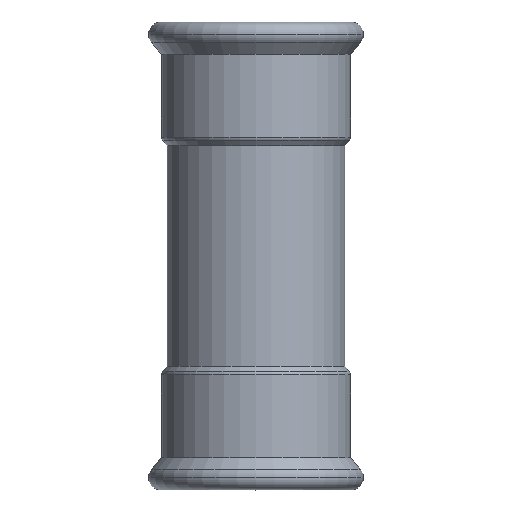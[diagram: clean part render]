
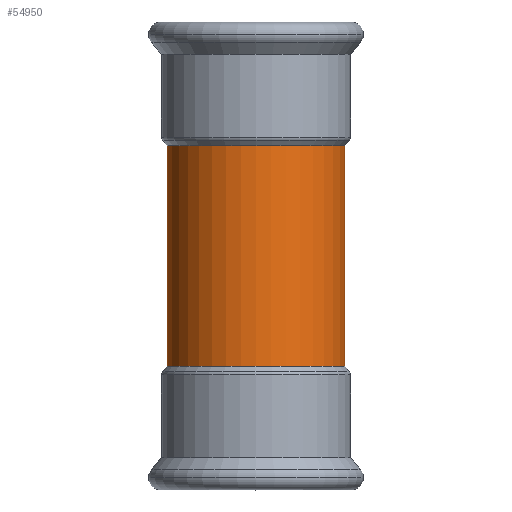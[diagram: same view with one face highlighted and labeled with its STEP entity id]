
A CAD part, top view. The second image highlights one B-rep face of the part: STEP entity #54950.
In plain terms, the highlighted cylindrical face has radius 27 mm (diameter 54 mm), a partial arc.
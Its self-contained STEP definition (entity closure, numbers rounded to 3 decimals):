
#13350=CARTESIAN_POINT('',(-319.291,6.435,
33.5));
#13360=DIRECTION('',(0.,0.,1.));
#13370=DIRECTION('',(-1.,0.,0.));
#13380=AXIS2_PLACEMENT_3D('',#13350,#13360,#13370);
#13390=CYLINDRICAL_SURFACE('',#13380,27.);
#19500=CARTESIAN_POINT('',(-292.291,6.435,
33.5));
#19510=DIRECTION('',(0.,0.,1.));
#19520=VECTOR('',#19510,1.);
#19530=LINE('',#19500,#19520);
#19540=CARTESIAN_POINT('',(-292.291,6.435,
-33.5));
#19550=VERTEX_POINT('',#19540);
#19560=CARTESIAN_POINT('',(-292.291,6.435,
33.5));
#19570=VERTEX_POINT('',#19560);
#19580=EDGE_CURVE('',#19550,#19570,#19530,.T.);
#19600=CARTESIAN_POINT('',(-319.291,6.435,
33.5));
#19610=DIRECTION('',(0.,0.,1.));
#19620=DIRECTION('',(1.,0.,0.));
#19630=AXIS2_PLACEMENT_3D('',#19600,#19610,#19620);
#19640=CIRCLE('',#19630,27.);
#19650=CARTESIAN_POINT('',(-346.291,6.435,
33.5));
#19660=VERTEX_POINT('',#19650);
#19690=CARTESIAN_POINT('',(-346.291,6.435,
33.5));
#19700=DIRECTION('',(0.,0.,1.));
#19710=VECTOR('',#19700,1.);
#19720=LINE('',#19690,#19710);
#19730=CARTESIAN_POINT('',(-346.291,6.435,
-33.5));
#19740=VERTEX_POINT('',#19730);
#19750=EDGE_CURVE('',#19740,#19660,#19720,.T.);
#19770=CARTESIAN_POINT('',(-319.291,6.435,
-33.5));
#19780=DIRECTION('',(0.,0.,1.));
#19790=DIRECTION('',(-1.,0.,0.));
#19800=AXIS2_PLACEMENT_3D('',#19770,#19780,#19790);
#19810=CIRCLE('',#19800,27.);
#54300=EDGE_CURVE('',#19660,#19570,#19640,.T.);
#54830=EDGE_CURVE('',#19740,#19550,#19810,.T.);
#54890=ORIENTED_EDGE('',*,*,#54830,.T.);
#54900=ORIENTED_EDGE('',*,*,#19750,.F.);
#54910=ORIENTED_EDGE('',*,*,#54300,.F.);
#54920=ORIENTED_EDGE('',*,*,#19580,.T.);
#54930=EDGE_LOOP('',(#54920,#54910,#54900,#54890));
#54940=FACE_OUTER_BOUND('',#54930,.T.);
#54950=ADVANCED_FACE('',(#54940),#13390,.T.);
